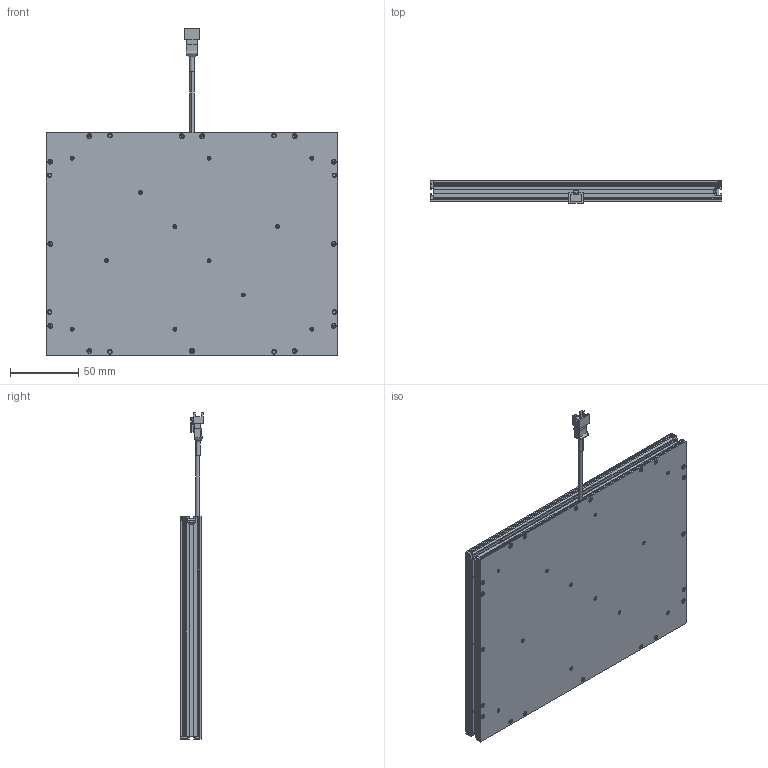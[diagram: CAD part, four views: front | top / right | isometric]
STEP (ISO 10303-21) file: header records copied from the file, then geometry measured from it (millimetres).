
FILE_DESCRIPTION (( 'STEP AP214' ), '1' );
FILE_NAME ('TMDF3006D102B_VDFP-200150.STEP', '2023-05-03T06:31:04', ( '' ), ( '' ), 'SwSTEP 2.0', 'SolidWorks 2018', '' );
FILE_SCHEMA (( 'AUTOMOTIVE_DESIGN' ));
Length unit declared in the file: millimetre
Products named in the file (1): TMDF3006D102B_VDFP-200150
Bounding box: 213 x 16.55 x 238.55 mm (x, y, z)
Surface area: 137773.8 mm2 (no closed solid volume)
Topology: 0 solids, 51 shells, 739 faces, 2440 edges, 1735 vertices
Faces by surface type: plane 461, cylinder 204, cone 72, bspline 2
Entity records: 36061 total; most frequent: CARTESIAN_POINT 6455, DIRECTION 4437, ORIENTED_EDGE 3984, EDGE_CURVE 2440, VECTOR 1751, LINE 1751, VERTEX_POINT 1735, AXIS2_PLACEMENT_3D 1343
